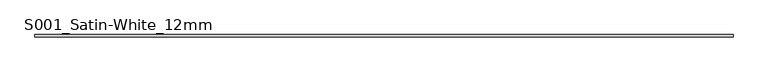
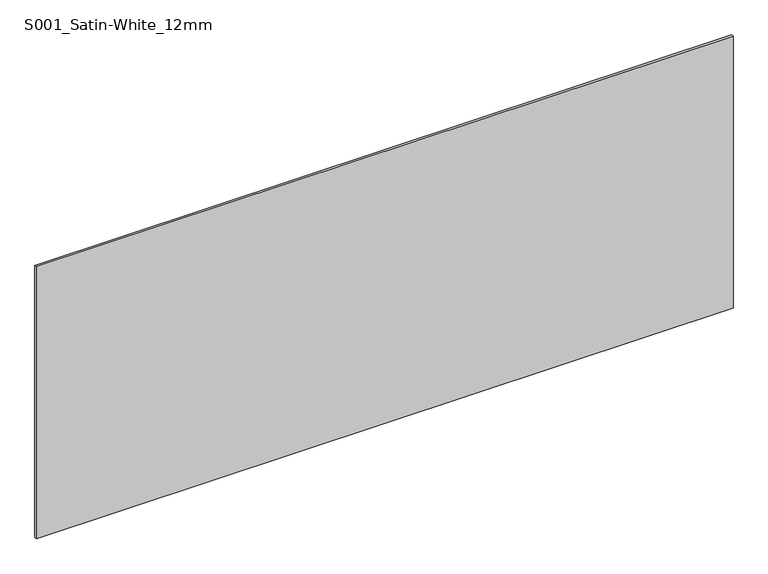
"""IFC4 building model written with IfcOpenShell, lengths in millimetres: plate geometry, Curtain-Panels_Outdoor-Material_HI-MACS_Solids : S001_Satin-White_12mm."""

from ifc_helpers import new_model, si_unit, origin, origin_with_axes, place, context, project, spatial, polyline, outline, extrude, source, transform, mapped, element, save


def s001_satin_white_12mm_d8c75ca1(model_context):
    return source(origin(), model_context, "Body", "SweptSolid", [
        extrude(outline(polyline([(1840.0, 6.0), (1840.0, -6.0), (-1840.0, -6.0), (-1840.0, 6.0), (1840.0, 6.0)])), origin_with_axes(), (0.0, 0.0, 1.0), 1520.0),
    ])


if __name__ == "__main__":
    model = new_model("IFC4")
    model_context = context("Model", 3, world=origin())
    ifc_project = project(units=[si_unit("LENGTHUNIT", "METRE", prefix="MILLI")], contexts=[model_context])
    site = spatial("IfcSite", under=ifc_project)
    building = spatial("IfcBuilding", under=site)
    placement = place(None, origin())
    s001_satin_white_12mm_shape = s001_satin_white_12mm_d8c75ca1(model_context)
    element("IfcPlate", 1, ObjectType="Curtain-Panels_Outdoor-Material_HI-MACS_Solids : S001_Satin-White_12mm", at=placement, inside=building, context=model_context, shape_type="MappedRepresentation", body=[
        mapped(s001_satin_white_12mm_shape, transform((0.0, 0.0, 0.0), x_axis=(1.0, 0.0, 0.0), y_axis=(0.0, 1.0, 0.0), z_axis=(0.0, 0.0, 1.0))),
    ])
    save(model, "model.ifc")
